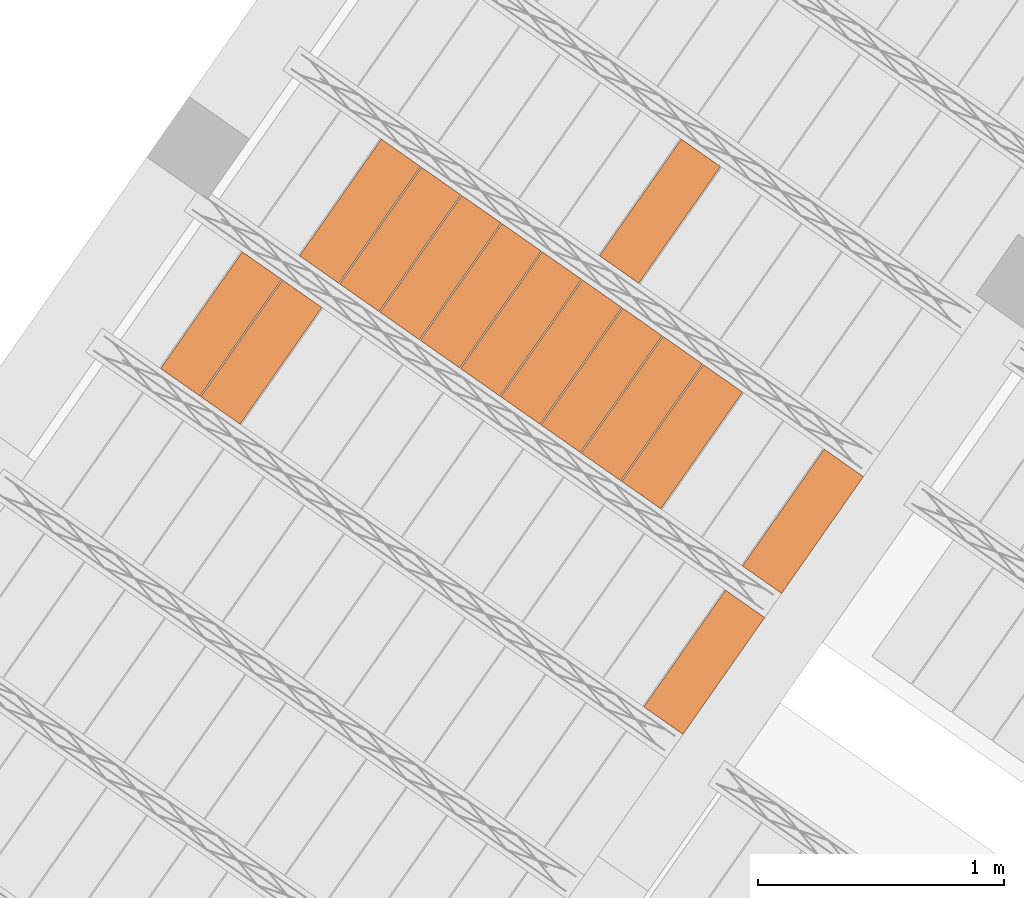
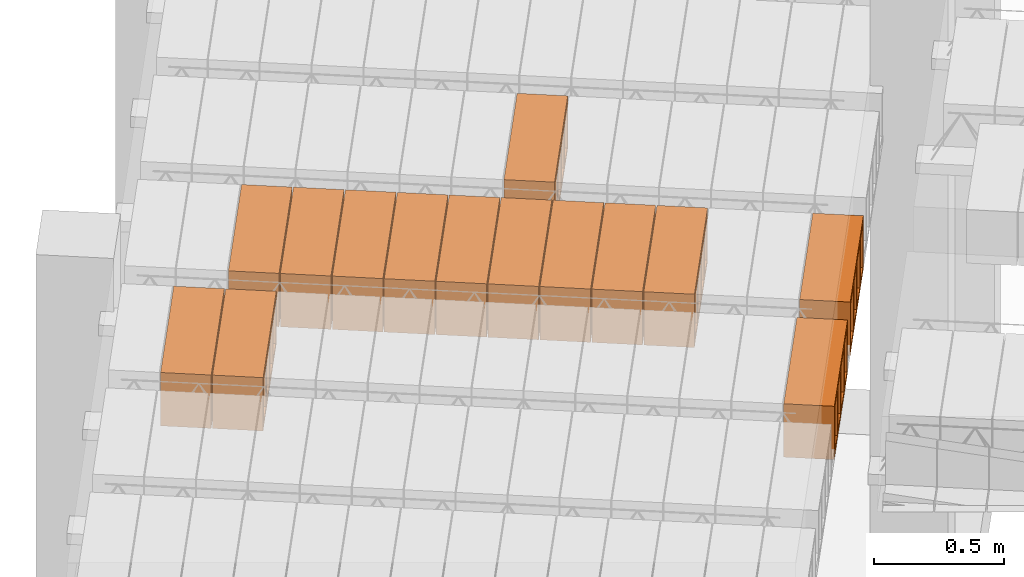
# One storey, part 69 of 80: 14 proxies.
"""IFC2X3 building model written with IfcOpenShell, lengths in metres."""

from ifc_helpers import new_model, entity, si_unit, converted_unit, derived_unit, direction, frame, origin, place, context, subcontext, project, spatial, polyline, outline, extrude, type_object, element, save


model = new_model("IFC2X3")

# Units and contexts
model_context = context("Model", 3, precision=1e-05, world=origin(), true_north=direction((6.123031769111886e-17, 1.0)))
body_context = subcontext(model_context, "Body", "Model", "MODEL_VIEW")
ifc_project = project(units=[si_unit("LENGTHUNIT", "METRE"), si_unit("AREAUNIT", "SQUARE_METRE"), si_unit("VOLUMEUNIT", "CUBIC_METRE"), converted_unit("PLANEANGLEUNIT", "DEGREE", entity("IfcPlaneAngleMeasure", 0.017453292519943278), si_unit("PLANEANGLEUNIT", "RADIAN"), dimensions=[0, 0, 0, 0, 0, 0, 0]), si_unit("MASSUNIT", "GRAM", prefix="KILO"), derived_unit("MASSDENSITYUNIT", [(si_unit("MASSUNIT", "GRAM", prefix="KILO"), 1), (si_unit("LENGTHUNIT", "METRE"), -3)]), derived_unit("IONCONCENTRATIONUNIT", [(si_unit("MASSUNIT", "GRAM", prefix="KILO"), 1), (si_unit("LENGTHUNIT", "METRE"), -3)]), derived_unit("MOMENTOFINERTIAUNIT", [(si_unit("LENGTHUNIT", "METRE"), 4)]), si_unit("TIMEUNIT", "SECOND"), si_unit("FREQUENCYUNIT", "HERTZ"), si_unit("THERMODYNAMICTEMPERATUREUNIT", "DEGREE_CELSIUS"), derived_unit("THERMALTRANSMITTANCEUNIT", [(si_unit("MASSUNIT", "GRAM", prefix="KILO"), 1), (si_unit("THERMODYNAMICTEMPERATUREUNIT", "KELVIN"), -1), (si_unit("TIMEUNIT", "SECOND"), -3)]), derived_unit("THERMALCONDUCTANCEUNIT", [(si_unit("MASSUNIT", "GRAM", prefix="KILO"), 1), (si_unit("THERMODYNAMICTEMPERATUREUNIT", "KELVIN"), -1), (si_unit("TIMEUNIT", "SECOND"), -3), (si_unit("LENGTHUNIT", "METRE"), 1)]), derived_unit("VOLUMETRICFLOWRATEUNIT", [(si_unit("LENGTHUNIT", "METRE", prefix="DECI"), 3), (si_unit("TIMEUNIT", "SECOND"), -1)]), derived_unit("MASSFLOWRATEUNIT", [(si_unit("MASSUNIT", "GRAM", prefix="KILO"), 1), (si_unit("TIMEUNIT", "SECOND"), -1)]), derived_unit("ROTATIONALFREQUENCYUNIT", [(si_unit("TIMEUNIT", "SECOND"), -1)]), si_unit("ELECTRICCURRENTUNIT", "AMPERE"), si_unit("ELECTRICVOLTAGEUNIT", "VOLT"), si_unit("POWERUNIT", "WATT"), si_unit("FORCEUNIT", "NEWTON", prefix="KILO"), si_unit("ILLUMINANCEUNIT", "LUX"), si_unit("LUMINOUSFLUXUNIT", "LUMEN"), si_unit("LUMINOUSINTENSITYUNIT", "CANDELA"), si_unit("ENERGYUNIT", "JOULE"), derived_unit("USERDEFINED", [(si_unit("MASSUNIT", "GRAM", prefix="KILO"), -1), (si_unit("LENGTHUNIT", "METRE"), -2), (si_unit("TIMEUNIT", "SECOND"), 3), (si_unit("LUMINOUSFLUXUNIT", "LUMEN"), 1)]), derived_unit("USERDEFINED", [(si_unit("MASSUNIT", "GRAM", prefix="KILO"), 1), (si_unit("TIMEUNIT", "SECOND"), -3), (si_unit("LENGTHUNIT", "METRE"), 3), (si_unit("ELECTRICCURRENTUNIT", "AMPERE"), -2)]), derived_unit("SOUNDPOWERUNIT", [(si_unit("MASSUNIT", "GRAM", prefix="KILO"), 1), (si_unit("TIMEUNIT", "SECOND"), -3), (si_unit("LENGTHUNIT", "METRE"), 2)]), derived_unit("SOUNDPRESSUREUNIT", [(si_unit("MASSUNIT", "GRAM", prefix="KILO"), 1), (si_unit("LENGTHUNIT", "METRE"), -1), (si_unit("TIMEUNIT", "SECOND"), -2)]), derived_unit("LINEARVELOCITYUNIT", [(si_unit("LENGTHUNIT", "METRE"), 1), (si_unit("TIMEUNIT", "SECOND"), -1)]), si_unit("PRESSUREUNIT", "PASCAL"), derived_unit("USERDEFINED", [(si_unit("MASSUNIT", "GRAM", prefix="KILO"), 1), (si_unit("LENGTHUNIT", "METRE"), -2), (si_unit("TIMEUNIT", "SECOND"), -2)]), derived_unit("LINEARFORCEUNIT", [(si_unit("MASSUNIT", "GRAM", prefix="KILO"), 1), (si_unit("TIMEUNIT", "SECOND"), -2)]), derived_unit("PLANARFORCEUNIT", [(si_unit("MASSUNIT", "GRAM", prefix="KILO"), 1), (si_unit("LENGTHUNIT", "METRE"), -1), (si_unit("TIMEUNIT", "SECOND"), -2)]), derived_unit("SPECIFICHEATCAPACITYUNIT", [(si_unit("THERMODYNAMICTEMPERATUREUNIT", "KELVIN"), -1), (si_unit("LENGTHUNIT", "METRE"), 2), (si_unit("TIMEUNIT", "SECOND"), -2)]), derived_unit("HEATFLUXDENSITYUNIT", [(si_unit("MASSUNIT", "GRAM", prefix="KILO"), 1), (si_unit("TIMEUNIT", "SECOND"), -3)]), derived_unit("HEATINGVALUEUNIT", [(si_unit("LENGTHUNIT", "METRE"), 2), (si_unit("TIMEUNIT", "SECOND"), -2)]), derived_unit("VAPORPERMEABILITYUNIT", [(si_unit("LENGTHUNIT", "METRE"), -1), (si_unit("TIMEUNIT", "SECOND"), 1)]), derived_unit("DYNAMICVISCOSITYUNIT", [(si_unit("MASSUNIT", "GRAM", prefix="KILO"), 1), (si_unit("TIMEUNIT", "SECOND"), -1), (si_unit("LENGTHUNIT", "METRE"), -1)]), derived_unit("THERMALEXPANSIONCOEFFICIENTUNIT", [(si_unit("THERMODYNAMICTEMPERATUREUNIT", "KELVIN"), -1)]), derived_unit("MODULUSOFELASTICITYUNIT", [(si_unit("MASSUNIT", "GRAM", prefix="KILO"), 1), (si_unit("LENGTHUNIT", "METRE"), -1), (si_unit("TIMEUNIT", "SECOND"), -2)]), derived_unit("ISOTHERMALMOISTURECAPACITYUNIT", [(si_unit("MASSUNIT", "GRAM", prefix="KILO"), -1), (si_unit("LENGTHUNIT", "METRE"), 3)]), derived_unit("MOISTUREDIFFUSIVITYUNIT", [(si_unit("TIMEUNIT", "SECOND"), -1), (si_unit("LENGTHUNIT", "METRE"), 2)]), derived_unit("MASSPERLENGTHUNIT", [(si_unit("MASSUNIT", "GRAM", prefix="KILO"), 1), (si_unit("LENGTHUNIT", "METRE"), -1)]), derived_unit("THERMALRESISTANCEUNIT", [(si_unit("MASSUNIT", "GRAM", prefix="KILO"), -1), (si_unit("TIMEUNIT", "SECOND"), 3), (si_unit("THERMODYNAMICTEMPERATUREUNIT", "KELVIN"), 1)]), derived_unit("ACCELERATIONUNIT", [(si_unit("LENGTHUNIT", "METRE"), 1), (si_unit("TIMEUNIT", "SECOND"), -2)]), derived_unit("ANGULARVELOCITYUNIT", [(si_unit("TIMEUNIT", "SECOND"), -1), (si_unit("PLANEANGLEUNIT", "RADIAN"), 1)]), derived_unit("LINEARSTIFFNESSUNIT", [(si_unit("MASSUNIT", "GRAM", prefix="KILO"), 1), (si_unit("TIMEUNIT", "SECOND"), -2)]), derived_unit("WARPINGCONSTANTUNIT", [(si_unit("LENGTHUNIT", "METRE"), 6)]), derived_unit("LINEARMOMENTUNIT", [(si_unit("MASSUNIT", "GRAM", prefix="KILO"), 1), (si_unit("LENGTHUNIT", "METRE"), 1), (si_unit("TIMEUNIT", "SECOND"), -2)]), derived_unit("TORQUEUNIT", [(si_unit("MASSUNIT", "GRAM", prefix="KILO"), 1), (si_unit("LENGTHUNIT", "METRE"), 2), (si_unit("TIMEUNIT", "SECOND"), -2)])], contexts=[model_context])

# Site, building, storey
site_placement = place(None, origin())
site = spatial("IfcSite", under=ifc_project, at=site_placement, Name="Default", CompositionType="ELEMENT")
building_placement = place(site_placement, origin())
building = spatial("IfcBuilding", under=site, at=building_placement, CompositionType="ELEMENT")
storey_placement = place(building_placement, frame((0.0, 0.0, 95.94)))
storey = spatial("IfcBuildingStorey", under=building, at=storey_placement, Name="PB", CompositionType="ELEMENT", Elevation=95.94)

# Proxies
building_element_proxy_type_1 = type_object("IfcBuildingElementProxyType", Name="Bovedilla 9-1 (Paño 2)", PredefinedType="USERDEFINED")
proxy_1_placement = place(storey_placement, origin())
element("IfcBuildingElementProxy", 1, at=proxy_1_placement, inside=storey, type_object=building_element_proxy_type_1, Name="Bovedilla 9-1 (Paño 2)", ObjectType="FORM", context=body_context, shape_type="SweptSolid", body=[
    extrude(outline(polyline([(-0.28999999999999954, -0.12500000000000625), (0.28999999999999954, -0.12500000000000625), (0.28999999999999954, 0.12500000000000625), (-0.28999999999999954, 0.12500000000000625), (-0.28999999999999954, -0.12500000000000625)]), holes=[polyline([(0.2699999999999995, -0.10499999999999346), (0.15500000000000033, -0.10499999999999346), (0.15500000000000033, 0.10499999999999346), (0.2699999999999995, 0.10499999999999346), (0.2699999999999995, 0.042499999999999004), (0.2699999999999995, -0.10499999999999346)]), polyline([(0.009999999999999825, -0.10499999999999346), (0.009999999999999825, 0.10499999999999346), (0.1350000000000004, 0.10499999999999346), (0.1350000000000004, -0.10499999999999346), (0.009999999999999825, -0.10499999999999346)]), polyline([(-0.1350000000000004, 0.10499999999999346), (-0.009999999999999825, 0.10499999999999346), (-0.009999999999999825, -0.10499999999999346), (-0.1350000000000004, -0.10499999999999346), (-0.1350000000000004, 0.10499999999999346)]), polyline([(-0.2699999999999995, -0.10499999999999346), (-0.2699999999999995, 0.042499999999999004), (-0.2699999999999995, 0.10499999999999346), (-0.15500000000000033, 0.10499999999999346), (-0.15500000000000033, -0.10499999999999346), (-0.2699999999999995, -0.10499999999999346)])]), frame((4.435855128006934, 6.050134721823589, 2.945000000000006), z_axis=(0.8191520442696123, -0.5735764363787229, 0.0), x_axis=(-0.5735764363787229, -0.8191520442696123, 0.0)), (0.0, 0.0, 1.0), 0.19499999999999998),
])
building_element_proxy_type_2 = type_object("IfcBuildingElementProxyType", Name="Bovedilla 9-12 (Paño 2)", PredefinedType="USERDEFINED")
proxy_2_placement = place(storey_placement, origin())
element("IfcBuildingElementProxy", 2, at=proxy_2_placement, inside=storey, type_object=building_element_proxy_type_2, Name="Bovedilla 9-12 (Paño 2)", ObjectType="FORM", context=body_context, shape_type="SweptSolid", body=[
    extrude(outline(polyline([(-0.28999999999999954, -0.12500000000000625), (0.28999999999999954, -0.12500000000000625), (0.28999999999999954, 0.12500000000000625), (-0.28999999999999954, 0.12500000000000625), (-0.28999999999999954, -0.12500000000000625)]), holes=[polyline([(0.2699999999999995, -0.10499999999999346), (0.15500000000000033, -0.10499999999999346), (0.15500000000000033, 0.10499999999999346), (0.2699999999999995, 0.10499999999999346), (0.2699999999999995, 0.042499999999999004), (0.2699999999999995, -0.10499999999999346)]), polyline([(0.009999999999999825, -0.10499999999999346), (0.009999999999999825, 0.10499999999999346), (0.1350000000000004, 0.10499999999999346), (0.1350000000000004, -0.10499999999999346), (0.009999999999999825, -0.10499999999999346)]), polyline([(-0.1350000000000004, 0.10499999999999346), (-0.009999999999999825, 0.10499999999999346), (-0.009999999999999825, -0.10499999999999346), (-0.1350000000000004, -0.10499999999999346), (-0.1350000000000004, 0.10499999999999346)]), polyline([(-0.2699999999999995, -0.10499999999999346), (-0.2699999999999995, 0.042499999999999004), (-0.2699999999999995, 0.10499999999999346), (-0.15500000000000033, 0.10499999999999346), (-0.15500000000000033, -0.10499999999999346), (-0.2699999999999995, -0.10499999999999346)])]), frame((2.6337206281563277, 7.312002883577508, 2.945000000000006), z_axis=(0.8191520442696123, -0.5735764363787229, 0.0), x_axis=(-0.5735764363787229, -0.8191520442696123, 0.0)), (0.0, 0.0, 1.0), 0.19499999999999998),
])
building_element_proxy_type_3 = type_object("IfcBuildingElementProxyType", Name="Bovedilla 9-13 (Paño 2)", PredefinedType="USERDEFINED")
proxy_3_placement = place(storey_placement, origin())
element("IfcBuildingElementProxy", 3, at=proxy_3_placement, inside=storey, type_object=building_element_proxy_type_3, Name="Bovedilla 9-13 (Paño 2)", ObjectType="FORM", context=body_context, shape_type="SweptSolid", body=[
    extrude(outline(polyline([(-0.28999999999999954, -0.12500000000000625), (0.28999999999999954, -0.12500000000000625), (0.28999999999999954, 0.12500000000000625), (-0.28999999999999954, 0.12500000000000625), (-0.28999999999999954, -0.12500000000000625)]), holes=[polyline([(0.2699999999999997, -0.10499999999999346), (0.15500000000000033, -0.10499999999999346), (0.15500000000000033, 0.10499999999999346), (0.2699999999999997, 0.10499999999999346), (0.2699999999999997, 0.042499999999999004), (0.2699999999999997, -0.10499999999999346)]), polyline([(0.009999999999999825, -0.10499999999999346), (0.009999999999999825, 0.10499999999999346), (0.1350000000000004, 0.10499999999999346), (0.1350000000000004, -0.10499999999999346), (0.009999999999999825, -0.10499999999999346)]), polyline([(-0.1350000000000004, 0.10499999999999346), (-0.009999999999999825, 0.10499999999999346), (-0.009999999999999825, -0.10499999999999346), (-0.1350000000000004, -0.10499999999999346), (-0.1350000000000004, 0.10499999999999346)]), polyline([(-0.2699999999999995, -0.10499999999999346), (-0.2699999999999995, 0.042499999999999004), (-0.2699999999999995, 0.10499999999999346), (-0.15500000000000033, 0.10499999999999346), (-0.15500000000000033, -0.10499999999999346), (-0.2699999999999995, -0.10499999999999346)])]), frame((2.4698902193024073, 7.426718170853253, 2.945000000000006), z_axis=(0.8191520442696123, -0.5735764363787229, 0.0), x_axis=(-0.5735764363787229, -0.8191520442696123, 0.0)), (0.0, 0.0, 1.0), 0.19499999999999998),
])
building_element_proxy_type_4 = type_object("IfcBuildingElementProxyType", Name="Bovedilla 10-1 (Paño 2)", PredefinedType="USERDEFINED")
proxy_4_placement = place(storey_placement, origin())
element("IfcBuildingElementProxy", 4, at=proxy_4_placement, inside=storey, type_object=building_element_proxy_type_4, Name="Bovedilla 10-1 (Paño 2)", ObjectType="FORM", context=body_context, shape_type="SweptSolid", body=[
    extrude(outline(polyline([(-0.28999999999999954, -0.12500000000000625), (0.28999999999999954, -0.12500000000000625), (0.28999999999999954, 0.12500000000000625), (-0.28999999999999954, 0.12500000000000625), (-0.28999999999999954, -0.12500000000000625)]), holes=[polyline([(0.2699999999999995, -0.10499999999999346), (0.15500000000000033, -0.10499999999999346), (0.15500000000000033, 0.10499999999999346), (0.2699999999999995, 0.10499999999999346), (0.2699999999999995, 0.042499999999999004), (0.2699999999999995, -0.10499999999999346)]), polyline([(0.009999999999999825, -0.10499999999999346), (0.009999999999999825, 0.10499999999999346), (0.1350000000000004, 0.10499999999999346), (0.1350000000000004, -0.10499999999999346), (0.009999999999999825, -0.10499999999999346)]), polyline([(-0.1350000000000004, 0.10499999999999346), (-0.009999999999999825, 0.10499999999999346), (-0.009999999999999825, -0.10499999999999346), (-0.1350000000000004, -0.10499999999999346), (-0.1350000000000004, 0.10499999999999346)]), polyline([(-0.26999999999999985, -0.10499999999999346), (-0.26999999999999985, 0.042499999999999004), (-0.26999999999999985, 0.10499999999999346), (-0.15500000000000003, 0.10499999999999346), (-0.15500000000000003, -0.10499999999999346), (-0.26999999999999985, -0.10499999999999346)])]), frame((4.837358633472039, 6.623541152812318, 2.945000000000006), z_axis=(0.8191520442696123, -0.5735764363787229, 0.0), x_axis=(-0.5735764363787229, -0.8191520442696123, 0.0)), (0.0, 0.0, 1.0), 0.19499999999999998),
])
building_element_proxy_type_5 = type_object("IfcBuildingElementProxyType", Name="Bovedilla 10-4 (Paño 2)", PredefinedType="USERDEFINED")
proxy_5_placement = place(storey_placement, origin())
element("IfcBuildingElementProxy", 5, at=proxy_5_placement, inside=storey, type_object=building_element_proxy_type_5, Name="Bovedilla 10-4 (Paño 2)", ObjectType="FORM", context=body_context, shape_type="SweptSolid", body=[
    extrude(outline(polyline([(-0.28999999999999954, -0.12500000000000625), (0.28999999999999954, -0.12500000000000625), (0.28999999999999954, 0.12500000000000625), (-0.28999999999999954, 0.12500000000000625), (-0.28999999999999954, -0.12500000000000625)]), holes=[polyline([(0.2699999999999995, -0.10499999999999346), (0.15500000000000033, -0.10499999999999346), (0.15500000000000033, 0.10499999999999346), (0.2699999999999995, 0.10499999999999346), (0.2699999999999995, 0.042499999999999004), (0.2699999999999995, -0.10499999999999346)]), polyline([(0.009999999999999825, -0.10499999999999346), (0.009999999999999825, 0.10499999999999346), (0.1350000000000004, 0.10499999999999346), (0.1350000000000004, -0.10499999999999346), (0.009999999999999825, -0.10499999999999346)]), polyline([(-0.1350000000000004, 0.10499999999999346), (-0.009999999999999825, 0.10499999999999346), (-0.009999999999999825, -0.10499999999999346), (-0.1350000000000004, -0.10499999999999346), (-0.1350000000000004, 0.10499999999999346)]), polyline([(-0.2699999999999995, -0.10499999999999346), (-0.2699999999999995, 0.042499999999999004), (-0.2699999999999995, 0.10499999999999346), (-0.15500000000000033, 0.10499999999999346), (-0.15500000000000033, -0.10499999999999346), (-0.2699999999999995, -0.10499999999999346)])]), frame((4.34586740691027, 6.96768701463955, 2.945000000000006), z_axis=(0.8191520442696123, -0.5735764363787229, 0.0), x_axis=(-0.5735764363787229, -0.8191520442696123, 0.0)), (0.0, 0.0, 1.0), 0.19499999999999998),
])
building_element_proxy_type_6 = type_object("IfcBuildingElementProxyType", Name="Bovedilla 10-5 (Paño 2)", PredefinedType="USERDEFINED")
proxy_6_placement = place(storey_placement, origin())
element("IfcBuildingElementProxy", 6, at=proxy_6_placement, inside=storey, type_object=building_element_proxy_type_6, Name="Bovedilla 10-5 (Paño 2)", ObjectType="FORM", context=body_context, shape_type="SweptSolid", body=[
    extrude(outline(polyline([(-0.28999999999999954, -0.12500000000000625), (0.28999999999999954, -0.12500000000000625), (0.28999999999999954, 0.12500000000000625), (-0.28999999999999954, 0.12500000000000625), (-0.28999999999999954, -0.12500000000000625)]), holes=[polyline([(0.2699999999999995, -0.10499999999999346), (0.15500000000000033, -0.10499999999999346), (0.15500000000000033, 0.10499999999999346), (0.2699999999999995, 0.10499999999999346), (0.2699999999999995, 0.042499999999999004), (0.2699999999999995, -0.10499999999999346)]), polyline([(0.009999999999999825, -0.10499999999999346), (0.009999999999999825, 0.10499999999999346), (0.1350000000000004, 0.10499999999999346), (0.1350000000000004, -0.10499999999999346), (0.009999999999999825, -0.10499999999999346)]), polyline([(-0.1350000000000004, 0.10499999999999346), (-0.009999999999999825, 0.10499999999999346), (-0.009999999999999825, -0.10499999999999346), (-0.1350000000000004, -0.10499999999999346), (-0.1350000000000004, 0.10499999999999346)]), polyline([(-0.2699999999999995, -0.10499999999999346), (-0.2699999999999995, 0.042499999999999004), (-0.2699999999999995, 0.10499999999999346), (-0.15500000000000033, 0.10499999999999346), (-0.15500000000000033, -0.10499999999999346), (-0.2699999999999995, -0.10499999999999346)])]), frame((4.182036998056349, 7.082402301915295, 2.945000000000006), z_axis=(0.8191520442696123, -0.5735764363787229, 0.0), x_axis=(-0.5735764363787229, -0.8191520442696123, 0.0)), (0.0, 0.0, 1.0), 0.19499999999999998),
])
building_element_proxy_type_7 = type_object("IfcBuildingElementProxyType", Name="Bovedilla 10-6 (Paño 2)", PredefinedType="USERDEFINED")
proxy_7_placement = place(storey_placement, origin())
element("IfcBuildingElementProxy", 7, at=proxy_7_placement, inside=storey, type_object=building_element_proxy_type_7, Name="Bovedilla 10-6 (Paño 2)", ObjectType="FORM", context=body_context, shape_type="SweptSolid", body=[
    extrude(outline(polyline([(-0.28999999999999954, -0.12500000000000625), (0.28999999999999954, -0.12500000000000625), (0.28999999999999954, 0.12500000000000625), (-0.28999999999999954, 0.12500000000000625), (-0.28999999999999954, -0.12500000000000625)]), holes=[polyline([(0.2699999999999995, -0.10499999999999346), (0.15500000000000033, -0.10499999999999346), (0.15500000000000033, 0.10499999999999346), (0.2699999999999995, 0.10499999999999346), (0.2699999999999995, 0.042499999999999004), (0.2699999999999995, -0.10499999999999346)]), polyline([(0.009999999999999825, -0.10499999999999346), (0.009999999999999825, 0.10499999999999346), (0.1350000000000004, 0.10499999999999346), (0.1350000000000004, -0.10499999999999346), (0.009999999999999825, -0.10499999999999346)]), polyline([(-0.1350000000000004, 0.10499999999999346), (-0.009999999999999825, 0.10499999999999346), (-0.009999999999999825, -0.10499999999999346), (-0.1350000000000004, -0.10499999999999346), (-0.1350000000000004, 0.10499999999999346)]), polyline([(-0.2699999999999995, -0.10499999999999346), (-0.2699999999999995, 0.042499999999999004), (-0.2699999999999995, 0.10499999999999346), (-0.15500000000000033, 0.10499999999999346), (-0.15500000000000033, -0.10499999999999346), (-0.2699999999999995, -0.10499999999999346)])]), frame((4.018206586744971, 7.197117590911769, 2.945000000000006), z_axis=(0.8191520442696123, -0.5735764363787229, 0.0), x_axis=(-0.5735764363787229, -0.8191520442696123, 0.0)), (0.0, 0.0, 1.0), 0.19499999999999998),
])
building_element_proxy_type_8 = type_object("IfcBuildingElementProxyType", Name="Bovedilla 10-7 (Paño 2)", PredefinedType="USERDEFINED")
proxy_8_placement = place(storey_placement, origin())
element("IfcBuildingElementProxy", 8, at=proxy_8_placement, inside=storey, type_object=building_element_proxy_type_8, Name="Bovedilla 10-7 (Paño 2)", ObjectType="FORM", context=body_context, shape_type="SweptSolid", body=[
    extrude(outline(polyline([(-0.28999999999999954, -0.12500000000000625), (0.28999999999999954, -0.12500000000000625), (0.28999999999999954, 0.12500000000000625), (-0.28999999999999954, 0.12500000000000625), (-0.28999999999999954, -0.12500000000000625)]), holes=[polyline([(0.2699999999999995, -0.10499999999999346), (0.15500000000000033, -0.10499999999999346), (0.15500000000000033, 0.10499999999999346), (0.2699999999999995, 0.10499999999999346), (0.2699999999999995, 0.042499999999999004), (0.2699999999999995, -0.10499999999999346)]), polyline([(0.009999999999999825, -0.10499999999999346), (0.009999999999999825, 0.10499999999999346), (0.1350000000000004, 0.10499999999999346), (0.1350000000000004, -0.10499999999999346), (0.009999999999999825, -0.10499999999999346)]), polyline([(-0.1350000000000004, 0.10499999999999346), (-0.009999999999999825, 0.10499999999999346), (-0.009999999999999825, -0.10499999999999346), (-0.1350000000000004, -0.10499999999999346), (-0.1350000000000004, 0.10499999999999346)]), polyline([(-0.2699999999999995, -0.10499999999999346), (-0.2699999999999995, 0.042499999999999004), (-0.2699999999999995, 0.10499999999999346), (-0.15500000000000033, 0.10499999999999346), (-0.15500000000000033, -0.10499999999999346), (-0.2699999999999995, -0.10499999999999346)])]), frame((3.854376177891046, 7.3118328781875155, 2.945000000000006), z_axis=(0.8191520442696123, -0.5735764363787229, 0.0), x_axis=(-0.5735764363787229, -0.8191520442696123, 0.0)), (0.0, 0.0, 1.0), 0.19499999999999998),
])
building_element_proxy_type_9 = type_object("IfcBuildingElementProxyType", Name="Bovedilla 10-8 (Paño 2)", PredefinedType="USERDEFINED")
proxy_9_placement = place(storey_placement, origin())
element("IfcBuildingElementProxy", 9, at=proxy_9_placement, inside=storey, type_object=building_element_proxy_type_9, Name="Bovedilla 10-8 (Paño 2)", ObjectType="FORM", context=body_context, shape_type="SweptSolid", body=[
    extrude(outline(polyline([(-0.28999999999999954, -0.12500000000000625), (0.28999999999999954, -0.12500000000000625), (0.28999999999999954, 0.12500000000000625), (-0.28999999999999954, 0.12500000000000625), (-0.28999999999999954, -0.12500000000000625)]), holes=[polyline([(0.2699999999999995, -0.10499999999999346), (0.15500000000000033, -0.10499999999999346), (0.15500000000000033, 0.10499999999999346), (0.2699999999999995, 0.10499999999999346), (0.2699999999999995, 0.042499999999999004), (0.2699999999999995, -0.10499999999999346)]), polyline([(0.009999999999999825, -0.10499999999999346), (0.009999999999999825, 0.10499999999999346), (0.1350000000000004, 0.10499999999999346), (0.1350000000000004, -0.10499999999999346), (0.009999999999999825, -0.10499999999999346)]), polyline([(-0.1350000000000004, 0.10499999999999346), (-0.009999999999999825, 0.10499999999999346), (-0.009999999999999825, -0.10499999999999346), (-0.1350000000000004, -0.10499999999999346), (-0.1350000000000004, 0.10499999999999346)]), polyline([(-0.2699999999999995, -0.10499999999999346), (-0.2699999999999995, 0.042499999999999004), (-0.2699999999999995, 0.10499999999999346), (-0.15500000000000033, 0.10499999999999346), (-0.15500000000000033, -0.10499999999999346), (-0.2699999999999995, -0.10499999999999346)])]), frame((3.6905457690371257, 7.4265481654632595, 2.945000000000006), z_axis=(0.8191520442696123, -0.5735764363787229, 0.0), x_axis=(-0.5735764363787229, -0.8191520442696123, 0.0)), (0.0, 0.0, 1.0), 0.19499999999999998),
])
building_element_proxy_type_10 = type_object("IfcBuildingElementProxyType", Name="Bovedilla 10-9 (Paño 2)", PredefinedType="USERDEFINED")
proxy_10_placement = place(storey_placement, origin())
element("IfcBuildingElementProxy", 10, at=proxy_10_placement, inside=storey, type_object=building_element_proxy_type_10, Name="Bovedilla 10-9 (Paño 2)", ObjectType="FORM", context=body_context, shape_type="SweptSolid", body=[
    extrude(outline(polyline([(-0.28999999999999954, -0.12500000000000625), (0.28999999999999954, -0.12500000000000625), (0.28999999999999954, 0.12500000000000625), (-0.28999999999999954, 0.12500000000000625), (-0.28999999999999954, -0.12500000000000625)]), holes=[polyline([(0.2699999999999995, -0.10499999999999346), (0.15500000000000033, -0.10499999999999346), (0.15500000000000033, 0.10499999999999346), (0.2699999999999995, 0.10499999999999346), (0.2699999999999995, 0.042499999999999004), (0.2699999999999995, -0.10499999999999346)]), polyline([(0.009999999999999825, -0.10499999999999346), (0.009999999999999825, 0.10499999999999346), (0.1350000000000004, 0.10499999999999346), (0.1350000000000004, -0.10499999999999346), (0.009999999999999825, -0.10499999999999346)]), polyline([(-0.1350000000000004, 0.10499999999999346), (-0.009999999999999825, 0.10499999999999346), (-0.009999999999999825, -0.10499999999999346), (-0.1350000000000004, -0.10499999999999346), (-0.1350000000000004, 0.10499999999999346)]), polyline([(-0.2699999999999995, -0.10499999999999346), (-0.2699999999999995, 0.042499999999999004), (-0.2699999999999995, 0.10499999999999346), (-0.15500000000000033, 0.10499999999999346), (-0.15500000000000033, -0.10499999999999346), (-0.2699999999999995, -0.10499999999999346)])]), frame((3.5267153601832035, 7.5412634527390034, 2.945000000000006), z_axis=(0.8191520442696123, -0.5735764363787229, 0.0), x_axis=(-0.5735764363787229, -0.8191520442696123, 0.0)), (0.0, 0.0, 1.0), 0.19499999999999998),
])
building_element_proxy_type_11 = type_object("IfcBuildingElementProxyType", Name="Bovedilla 10-10 (Paño 2)", PredefinedType="USERDEFINED")
proxy_11_placement = place(storey_placement, origin())
element("IfcBuildingElementProxy", 11, at=proxy_11_placement, inside=storey, type_object=building_element_proxy_type_11, Name="Bovedilla 10-10 (Paño 2)", ObjectType="FORM", context=body_context, shape_type="SweptSolid", body=[
    extrude(outline(polyline([(-0.28999999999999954, -0.12500000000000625), (0.28999999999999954, -0.12500000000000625), (0.28999999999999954, 0.12500000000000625), (-0.28999999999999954, 0.12500000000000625), (-0.28999999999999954, -0.12500000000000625)]), holes=[polyline([(0.2699999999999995, -0.10499999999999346), (0.15500000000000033, -0.10499999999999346), (0.15500000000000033, 0.10499999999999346), (0.2699999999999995, 0.10499999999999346), (0.2699999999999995, 0.042499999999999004), (0.2699999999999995, -0.10499999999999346)]), polyline([(0.009999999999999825, -0.10499999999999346), (0.009999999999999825, 0.10499999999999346), (0.1350000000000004, 0.10499999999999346), (0.1350000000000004, -0.10499999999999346), (0.009999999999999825, -0.10499999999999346)]), polyline([(-0.1350000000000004, 0.10499999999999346), (-0.009999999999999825, 0.10499999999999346), (-0.009999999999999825, -0.10499999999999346), (-0.1350000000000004, -0.10499999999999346), (-0.1350000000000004, 0.10499999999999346)]), polyline([(-0.2699999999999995, -0.10499999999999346), (-0.2699999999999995, 0.042499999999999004), (-0.2699999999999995, 0.10499999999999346), (-0.15500000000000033, 0.10499999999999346), (-0.15500000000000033, -0.10499999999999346), (-0.2699999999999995, -0.10499999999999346)])]), frame((3.3628849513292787, 7.655978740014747, 2.945000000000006), z_axis=(0.8191520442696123, -0.5735764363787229, 0.0), x_axis=(-0.5735764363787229, -0.8191520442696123, 0.0)), (0.0, 0.0, 1.0), 0.19499999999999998),
])
building_element_proxy_type_12 = type_object("IfcBuildingElementProxyType", Name="Bovedilla 10-11 (Paño 2)", PredefinedType="USERDEFINED")
proxy_12_placement = place(storey_placement, origin())
element("IfcBuildingElementProxy", 12, at=proxy_12_placement, inside=storey, type_object=building_element_proxy_type_12, Name="Bovedilla 10-11 (Paño 2)", ObjectType="FORM", context=body_context, shape_type="SweptSolid", body=[
    extrude(outline(polyline([(-0.28999999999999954, -0.12500000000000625), (0.28999999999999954, -0.12500000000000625), (0.28999999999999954, 0.12500000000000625), (-0.28999999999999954, 0.12500000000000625), (-0.28999999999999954, -0.12500000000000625)]), holes=[polyline([(0.2699999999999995, -0.10499999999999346), (0.15500000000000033, -0.10499999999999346), (0.15500000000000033, 0.10499999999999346), (0.2699999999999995, 0.10499999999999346), (0.2699999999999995, 0.042499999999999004), (0.2699999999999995, -0.10499999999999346)]), polyline([(0.009999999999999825, -0.10499999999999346), (0.009999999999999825, 0.10499999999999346), (0.1350000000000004, 0.10499999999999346), (0.1350000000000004, -0.10499999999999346), (0.009999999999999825, -0.10499999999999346)]), polyline([(-0.1350000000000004, 0.10499999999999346), (-0.009999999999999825, 0.10499999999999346), (-0.009999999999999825, -0.10499999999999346), (-0.1350000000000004, -0.10499999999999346), (-0.1350000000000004, 0.10499999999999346)]), polyline([(-0.2699999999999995, -0.10499999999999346), (-0.2699999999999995, 0.042499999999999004), (-0.2699999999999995, 0.10499999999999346), (-0.15500000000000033, 0.10499999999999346), (-0.15500000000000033, -0.10499999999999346), (-0.2699999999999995, -0.10499999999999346)])]), frame((3.1990545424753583, 7.770694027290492, 2.945000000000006), z_axis=(0.8191520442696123, -0.5735764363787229, 0.0), x_axis=(-0.5735764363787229, -0.8191520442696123, 0.0)), (0.0, 0.0, 1.0), 0.19499999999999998),
])
building_element_proxy_type_13 = type_object("IfcBuildingElementProxyType", Name="Bovedilla 10-12 (Paño 2)", PredefinedType="USERDEFINED")
proxy_13_placement = place(storey_placement, origin())
element("IfcBuildingElementProxy", 13, at=proxy_13_placement, inside=storey, type_object=building_element_proxy_type_13, Name="Bovedilla 10-12 (Paño 2)", ObjectType="FORM", context=body_context, shape_type="SweptSolid", body=[
    extrude(outline(polyline([(-0.28999999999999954, -0.12500000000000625), (0.28999999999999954, -0.12500000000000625), (0.28999999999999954, 0.12500000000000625), (-0.28999999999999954, 0.12500000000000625), (-0.28999999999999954, -0.12500000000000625)]), holes=[polyline([(0.2699999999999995, -0.10499999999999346), (0.15500000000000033, -0.10499999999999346), (0.15500000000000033, 0.10499999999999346), (0.2699999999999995, 0.10499999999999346), (0.2699999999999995, 0.042499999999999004), (0.2699999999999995, -0.10499999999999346)]), polyline([(0.009999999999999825, -0.10499999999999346), (0.009999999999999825, 0.10499999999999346), (0.1350000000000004, 0.10499999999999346), (0.1350000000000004, -0.10499999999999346), (0.009999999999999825, -0.10499999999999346)]), polyline([(-0.1350000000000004, 0.10499999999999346), (-0.009999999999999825, 0.10499999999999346), (-0.009999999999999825, -0.10499999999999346), (-0.1350000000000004, -0.10499999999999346), (-0.1350000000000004, 0.10499999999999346)]), polyline([(-0.2699999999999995, -0.10499999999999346), (-0.2699999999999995, 0.042499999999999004), (-0.2699999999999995, 0.10499999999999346), (-0.15500000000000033, 0.10499999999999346), (-0.15500000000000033, -0.10499999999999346), (-0.2699999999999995, -0.10499999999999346)])]), frame((3.035224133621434, 7.885409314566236, 2.945000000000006), z_axis=(0.8191520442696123, -0.5735764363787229, 0.0), x_axis=(-0.5735764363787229, -0.8191520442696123, 0.0)), (0.0, 0.0, 1.0), 0.19499999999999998),
])
building_element_proxy_type_14 = type_object("IfcBuildingElementProxyType", Name="Bovedilla 11-7 (Paño 2)", PredefinedType="USERDEFINED")
proxy_14_placement = place(storey_placement, origin())
element("IfcBuildingElementProxy", 14, at=proxy_14_placement, inside=storey, type_object=building_element_proxy_type_14, Name="Bovedilla 11-7 (Paño 2)", ObjectType="FORM", context=body_context, shape_type="SweptSolid", body=[
    extrude(outline(polyline([(-0.28999999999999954, -0.12500000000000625), (0.28999999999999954, -0.12500000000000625), (0.28999999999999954, 0.12500000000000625), (-0.28999999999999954, 0.12500000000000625), (-0.28999999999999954, -0.12500000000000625)]), holes=[polyline([(0.2699999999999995, -0.10499999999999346), (0.15500000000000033, -0.10499999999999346), (0.15500000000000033, 0.10499999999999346), (0.2699999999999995, 0.10499999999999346), (0.2699999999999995, 0.042499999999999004), (0.2699999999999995, -0.10499999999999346)]), polyline([(0.009999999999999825, -0.10499999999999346), (0.009999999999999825, 0.10499999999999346), (0.1350000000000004, 0.10499999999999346), (0.1350000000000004, -0.10499999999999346), (0.009999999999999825, -0.10499999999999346)]), polyline([(-0.1350000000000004, 0.10499999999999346), (-0.009999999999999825, 0.10499999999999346), (-0.009999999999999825, -0.10499999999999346), (-0.1350000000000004, -0.10499999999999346), (-0.1350000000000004, 0.10499999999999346)]), polyline([(-0.2699999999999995, -0.10499999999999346), (-0.2699999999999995, 0.042499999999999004), (-0.2699999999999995, 0.10499999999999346), (-0.15500000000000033, 0.10499999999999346), (-0.15500000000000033, -0.10499999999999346), (-0.2699999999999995, -0.10499999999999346)])]), frame((4.255879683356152, 7.885239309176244, 2.945000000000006), z_axis=(0.8191520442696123, -0.5735764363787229, 0.0), x_axis=(-0.5735764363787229, -0.8191520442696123, 0.0)), (0.0, 0.0, 1.0), 0.19499999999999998),
])

save(model, "model.ifc")
